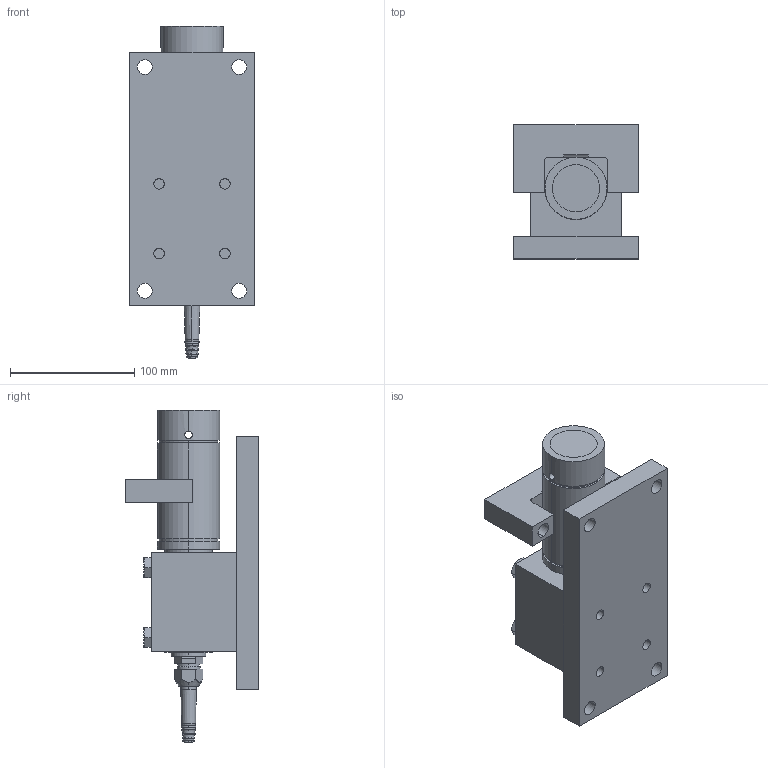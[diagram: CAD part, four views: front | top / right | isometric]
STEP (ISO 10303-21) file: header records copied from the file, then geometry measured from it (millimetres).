
FILE_DESCRIPTION (( 'STEP AP214' ), '1' );
FILE_NAME ('KIS-8 30 kN Module.STEP', '2021-06-30T10:31:06', ( '' ), ( '' ), 'SwSTEP 2.0', 'SolidWorks 2021', '' );
FILE_SCHEMA (( 'AUTOMOTIVE_DESIGN' ));
Length unit declared in the file: millimetre
Products named in the file (9): 500002r0; KIS-8 30 kN Module; 6365325r2 OK KIS-8 10-30 kN; 500003r2; Element KIS-8 30 kN; hex bolt gradeab_din_DIN EN 24014 - M10 x 80 x 26-N; 500004r0 Platta KIS-8 5-20 kN; Pg9 - 1009.52 6_2_14; M26x1.5 - Pg9 - 6369829
Assembly tree (11 placements, depth 2):
  KIS-8 30 kN Module
    Element KIS-8 30 kN
    500002r0
    500003r2
    M26x1.5 - Pg9 - 6369829
    Pg9 - 1009.52 6_2_14
    500004r0 Platta KIS-8 5-20 kN
    6365325r2 OK KIS-8 10-30 kN
    hex bolt gradeab_din_DIN EN 24014 - M10 x 80 x 26-N  x4
Bounding box: 100 x 107.5 x 267 mm (x, y, z)
Volume: 1036780.6 mm3; surface area: 205056.6 mm2
Topology: 11 solids, 14 shells, 364 faces, 846 edges, 522 vertices
Faces by surface type: plane 129, cylinder 122, cone 79, torus 18, bspline 16
Entity records: 13654 total; most frequent: CARTESIAN_POINT 6317, DIRECTION 1356, ORIENTED_EDGE 1332, EDGE_CURVE 666, AXIS2_PLACEMENT_3D 556, VERTEX_POINT 420, EDGE_LOOP 336, CIRCLE 281
